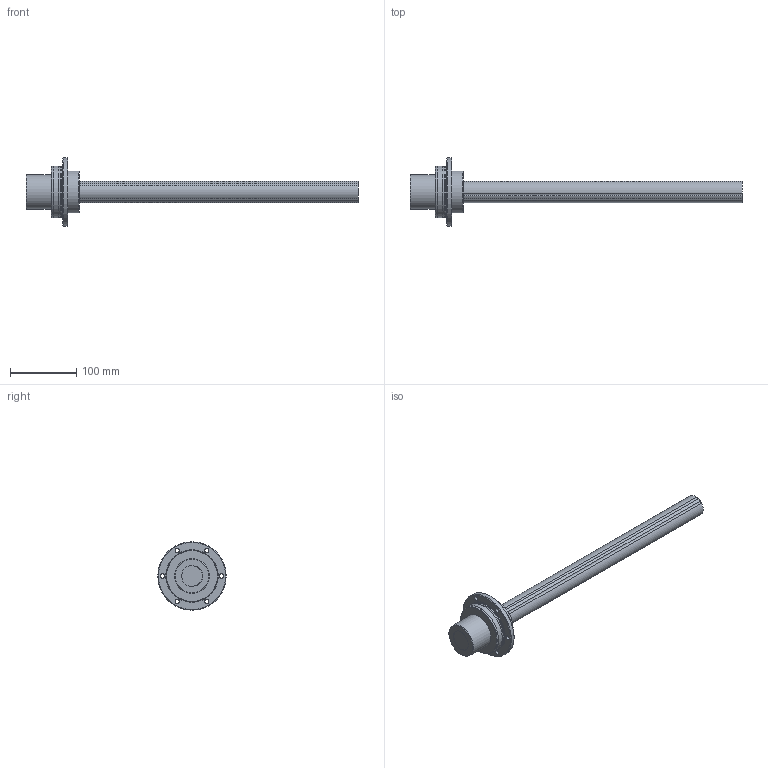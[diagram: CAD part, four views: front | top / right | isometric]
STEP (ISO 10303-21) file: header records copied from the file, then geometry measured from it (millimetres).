
FILE_DESCRIPTION(/* description */ ('STEP AP214'),/* implementation_level */ '2;1');
FILE_NAME(/* name */ 'LTR32A+500L(0_0)',/* time_stamp */ '2024-09-04T12:32:40+02:00',/* author */ ('License CC BY-ND 4.0'),/* organization */ ('CADENAS'),/* preprocessor_version */ 'ST-DEVELOPER v19.3',/* originating_system */ 'PARTsolutions',/* authorisation */ ' ');
FILE_SCHEMA (('AUTOMOTIVE_DESIGN {1 0 10303 214 3 1 1}'));
Length unit declared in the file: millimetre
Products named in the file (3): LTR32A+500L(0,0); LTR 32A500 LTRA Shaft; LTR 32A LTRA ACyl
Assembly tree (3 placements, depth 2):
  LTR32A+500L(0,0)
    LTR 32A500 LTRA Shaft
    LTR 32A LTRA ACyl  x2
Bounding box: 500 x 103 x 103 mm (x, y, z)
Volume: 814520.4 mm3; surface area: 137886.9 mm2
Topology: 3 solids, 3 shells, 110 faces, 254 edges, 160 vertices
Faces by surface type: cylinder 54, cone 34, plane 16, torus 6
Full cylindrical faces by diameter (mm): 4.917 x12, 6.6 x12, 32 x2, 52 x2, 63 x2, 72 x2, 77.5 x2, 77.6 x2, 78 x4, 103 x2
Entity records: 1599 total; most frequent: DIRECTION 300, CARTESIAN_POINT 240, ORIENTED_EDGE 180, AXIS2_PLACEMENT_3D 144, FACE_BOUND 128, EDGE_LOOP 122, EDGE_CURVE 90, VERTEX_POINT 84
